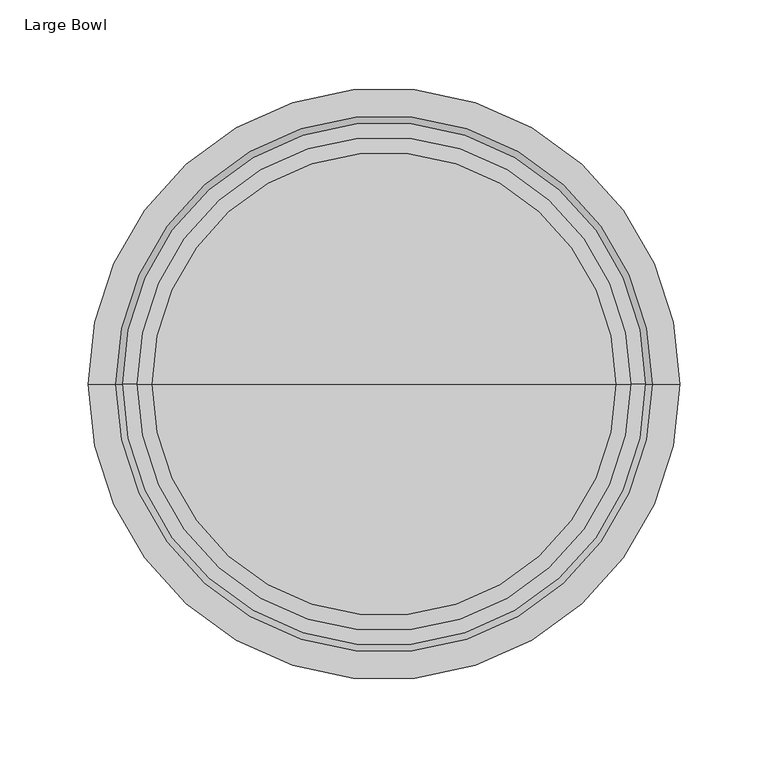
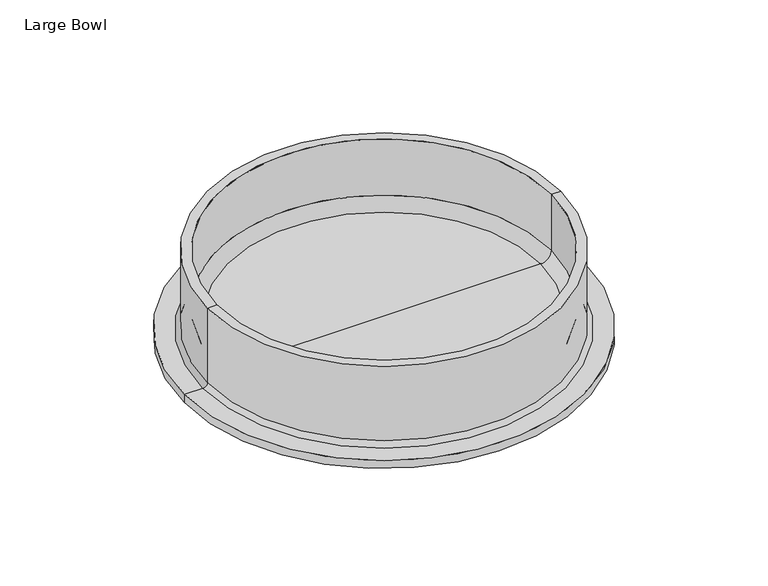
"""IFC4 building model written with IfcOpenShell, lengths in millimetres: furniture geometry, Blu Dot - Flange - Bowls : Large Bowl."""

from ifc_helpers import new_model, si_unit, point, frame, origin, place, context, project, spatial, polyline, circle_curve, ellipse_curve, trimmed, source, transform, mapped, element, save
from ifc_brep_helpers import plane_surface, cylinder_surface, revolved_surface, advanced_brep


def large_bowl_f3ab3fe9(model_context):
    return source(origin(), model_context, "Body", "AdvancedBrep", [
        advanced_brep(
        [(148.3740313, 0.0, 490.355907), (-148.3740313, 0.0, 490.355907), (-148.3740313, 0.0, 556.3859153), (148.3740313, 0.0, 556.3859153), (152.1840313, 0.0, 486.545907), (-152.1840313, 0.0, 486.545907), (167.9198858, 0.0, 486.545907), (-167.9198858, 0.0, 486.545907), (167.9198858, 0.0, 479.4173575), (-167.9198858, 0.0, 479.4173575), (0.0, 0.0, 479.4173575), (131.4603023, 0.0, 497.6142585), (-131.4603023, 0.0, 497.6142585), (0.0, 0.0, 497.6142585), (140.3503023, 0.0, 506.5042585), (-140.3503023, 0.0, 506.5042585), (140.3503023, 0.0, 556.3859153), (-140.3503023, 0.0, 556.3859153)],
        [
            (0, 1, circle_curve(frame((0.0, 0.0, 490.355907), z_axis=(0.0, 0.0, 1.0), x_axis=(-1.0, 0.0, 0.0)), 148.3740313)),
            (1, 2),
            (2, 3, circle_curve(frame((0.0, 0.0, 556.3859153), z_axis=(0.0, 0.0, -1.0), x_axis=(-1.0, 0.0, 0.0)), 148.3740313)),
            (3, 0),
            (1, 0, circle_curve(frame((0.0, 0.0, 490.355907), z_axis=(0.0, 0.0, 1.0), x_axis=(-1.0, 0.0, 0.0)), 148.3740313)),
            (3, 2, circle_curve(frame((0.0, 0.0, 556.3859153), z_axis=(0.0, 0.0, -1.0), x_axis=(-1.0, 0.0, 0.0)), 148.3740313)),
            (4, 5, circle_curve(frame((0.0, 0.0, 486.545907), z_axis=(0.0, 0.0, 1.0), x_axis=(-1.0, 0.0, 0.0)), 152.1840313)),
            (5, 1, circle_curve(frame((-152.1840313, 0.0, 490.355907), z_axis=(0.0, -1.0, 0.0), x_axis=(1.0, 0.0, 0.0)), 3.81)),
            (0, 4, circle_curve(frame((152.1840313, 0.0, 490.355907), z_axis=(0.0, -1.0, 0.0), x_axis=(-1.0, 0.0, 0.0)), 3.81)),
            (5, 4, circle_curve(frame((0.0, 0.0, 486.545907), z_axis=(0.0, 0.0, 1.0), x_axis=(-1.0, 0.0, 0.0)), 152.1840313)),
            (6, 7, circle_curve(frame((0.0, 0.0, 486.545907), z_axis=(0.0, 0.0, 1.0), x_axis=(-1.0, 0.0, 0.0)), 167.9198858)),
            (7, 5),
            (4, 6),
            (7, 6, circle_curve(frame((0.0, 0.0, 486.545907), z_axis=(0.0, 0.0, 1.0), x_axis=(-1.0, 0.0, 0.0)), 167.9198858)),
            (8, 9, circle_curve(frame((0.0, 0.0, 479.4173575), z_axis=(0.0, 0.0, 1.0), x_axis=(-1.0, 0.0, 0.0)), 167.9198858)),
            (9, 7),
            (6, 8),
            (9, 8, circle_curve(frame((0.0, 0.0, 479.4173575), z_axis=(0.0, 0.0, 1.0), x_axis=(-1.0, 0.0, 0.0)), 167.9198858)),
            (10, 9),
            (8, 10),
            (11, 12, circle_curve(frame((0.0, 0.0, 497.6142585), z_axis=(0.0, 0.0, 1.0), x_axis=(-1.0, 0.0, 0.0)), 131.4603023)),
            (12, 13),
            (13, 11),
            (12, 11, circle_curve(frame((0.0, 0.0, 497.6142585), z_axis=(0.0, 0.0, 1.0), x_axis=(-1.0, 0.0, 0.0)), 131.4603023)),
            (14, 15, circle_curve(frame((0.0, 0.0, 506.5042585), z_axis=(0.0, 0.0, 1.0), x_axis=(-1.0, 0.0, 0.0)), 140.3503023)),
            (15, 12, circle_curve(frame((-131.4603023, 0.0, 506.5042585), z_axis=(0.0, -1.0, 0.0), x_axis=(1.0, 0.0, 0.0)), 8.89)),
            (11, 14, circle_curve(frame((131.4603023, 0.0, 506.5042585), z_axis=(0.0, -1.0, 0.0), x_axis=(-1.0, 0.0, 0.0)), 8.89)),
            (15, 14, circle_curve(frame((0.0, 0.0, 506.5042585), z_axis=(0.0, 0.0, 1.0), x_axis=(-1.0, 0.0, 0.0)), 140.3503023)),
            (16, 17, circle_curve(frame((0.0, 0.0, 556.3859153), z_axis=(0.0, 0.0, 1.0), x_axis=(-1.0, 0.0, 0.0)), 140.3503023)),
            (17, 15),
            (14, 16),
            (17, 16, circle_curve(frame((0.0, 0.0, 556.3859153), z_axis=(0.0, 0.0, 1.0), x_axis=(-1.0, 0.0, 0.0)), 140.3503023)),
            (2, 17),
            (16, 3),
        ],
        [
            cylinder_surface(frame((0.0, 0.0, 593.7173575), z_axis=(0.0, 0.0, -1.0), x_axis=(-1.0, 0.0, 0.0)), 148.3740313),
            revolved_surface(trimmed(ellipse_curve(frame((-152.1840313, 0.0, 490.355907), z_axis=(0.0, 1.0, 0.0), x_axis=(1.0, 0.0, 0.0)), 3.81, 3.81), [point((-148.3740313, 0.0, 490.355907))], [point((-152.1840313, 0.0, 486.545907))], True, "CARTESIAN"), (0.0, 0.0, 593.7173575), (0.0, 0.0, -1.0)),
            plane_surface(frame((0.0, 0.0, 486.545907), z_axis=(0.0, 0.0, 1.0), x_axis=(-1.0, 0.0, 0.0))),
            cylinder_surface(frame((0.0, 0.0, 593.7173575), z_axis=(0.0, 0.0, -1.0), x_axis=(-1.0, 0.0, 0.0)), 167.9198858),
            plane_surface(frame((0.0, 0.0, 479.4173575), z_axis=(0.0, 0.0, -1.0), x_axis=(-1.0, 0.0, 0.0))),
            plane_surface(frame((0.0, 0.0, 497.6142585), z_axis=(0.0, 0.0, 1.0), x_axis=(-1.0, 0.0, 0.0))),
            revolved_surface(trimmed(ellipse_curve(frame((-131.4603023, 0.0, 506.5042585), z_axis=(0.0, 1.0, 0.0), x_axis=(1.0, 0.0, 0.0)), 8.89, 8.89), [point((-131.4603023, 0.0, 497.6142585))], [point((-140.3503023, 0.0, 506.5042585))], True, "CARTESIAN"), (0.0, 0.0, 593.7173575), (0.0, 0.0, -1.0)),
            revolved_surface(polyline([(-140.3503023, 0.0, 506.5042585), (-140.3503023, 0.0, 556.3859153)]), (0.0, 0.0, 593.7173575), (0.0, 0.0, -1.0)),
            plane_surface(frame((0.0, 0.0, 556.3859153), z_axis=(0.0, 0.0, 1.0), x_axis=(-1.0, 0.0, 0.0))),
        ],
        [
            (0, [[1, 2, 3, 4]]),
            (0, [[5, -4, 6, -2]]),
            (1, [[7, 8, -1, 9]]),
            (1, [[10, -9, -5, -8]]),
            (2, [[11, 12, -7, 13]]),
            (2, [[14, -13, -10, -12]]),
            (3, [[15, 16, -11, 17]]),
            (3, [[18, -17, -14, -16]]),
            (4, [[19, -15, 20]]),
            (4, [[-20, -18, -19]]),
            (5, [[21, 22, 23]]),
            (5, [[24, -23, -22]]),
            (6, [[25, 26, -21, 27]]),
            (6, [[28, -27, -24, -26]]),
            (7, [[29, 30, -25, 31]]),
            (7, [[32, -31, -28, -30]]),
            (8, [[-3, 33, -29, 34]]),
            (8, [[-6, -34, -32, -33]]),
        ],
    ),
    ])


if __name__ == "__main__":
    model = new_model("IFC4")
    model_context = context("Model", 3, world=origin())
    ifc_project = project(units=[si_unit("LENGTHUNIT", "METRE", prefix="MILLI")], contexts=[model_context])
    site = spatial("IfcSite", under=ifc_project)
    building = spatial("IfcBuilding", under=site)
    placement = place(None, origin())
    large_bowl_shape = large_bowl_f3ab3fe9(model_context)
    element("IfcFurniture", 1, ObjectType="Blu Dot - Flange - Bowls : Large Bowl", at=placement, inside=building, context=model_context, shape_type="MappedRepresentation", body=[
        mapped(large_bowl_shape, transform((0.0, 0.0, 0.0), x_axis=(1.0, 0.0, 0.0), y_axis=(0.0, 1.0, 0.0), z_axis=(0.0, 0.0, 1.0))),
    ])
    save(model, "model.ifc")
